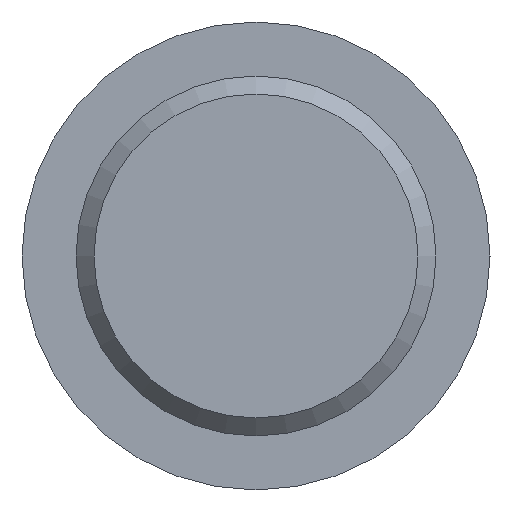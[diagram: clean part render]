
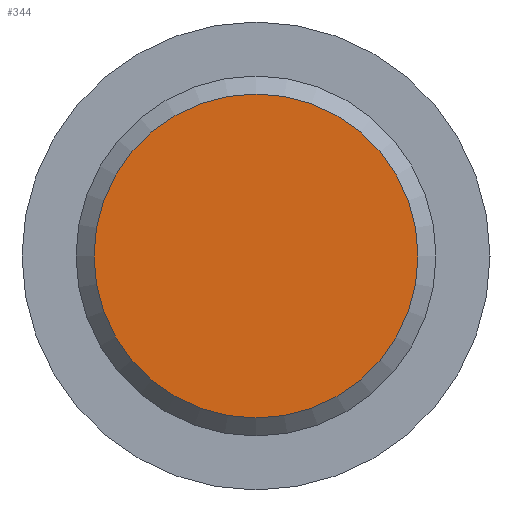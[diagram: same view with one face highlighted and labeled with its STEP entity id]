
A CAD part, left-side view. The second image highlights one B-rep face of the part: STEP entity #344.
In plain terms, the highlighted planar face has unit normal (-1, 0, 0).
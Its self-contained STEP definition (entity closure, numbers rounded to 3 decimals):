
#29=PLANE('',#406);
#91=FACE_OUTER_BOUND('',#115,.T.);
#115=EDGE_LOOP('',(#288));
#147=CIRCLE('',#405,9.);
#179=VERTEX_POINT('',#643);
#220=EDGE_CURVE('',#179,#179,#147,.T.);
#288=ORIENTED_EDGE('',*,*,#220,.F.);
#344=ADVANCED_FACE('',(#91),#29,.T.);
#405=AXIS2_PLACEMENT_3D('',#645,#493,#494);
#406=AXIS2_PLACEMENT_3D('',#646,#495,#496);
#493=DIRECTION('center_axis',(1.,0.,0.));
#494=DIRECTION('ref_axis',(0.,-1.,0.));
#495=DIRECTION('center_axis',(-1.,0.,0.));
#496=DIRECTION('ref_axis',(0.,0.,1.));
#643=CARTESIAN_POINT('',(0.,9.,0.));
#645=CARTESIAN_POINT('Origin',(0.,0.,
0.));
#646=CARTESIAN_POINT('Origin',(0.,5.,0.));
